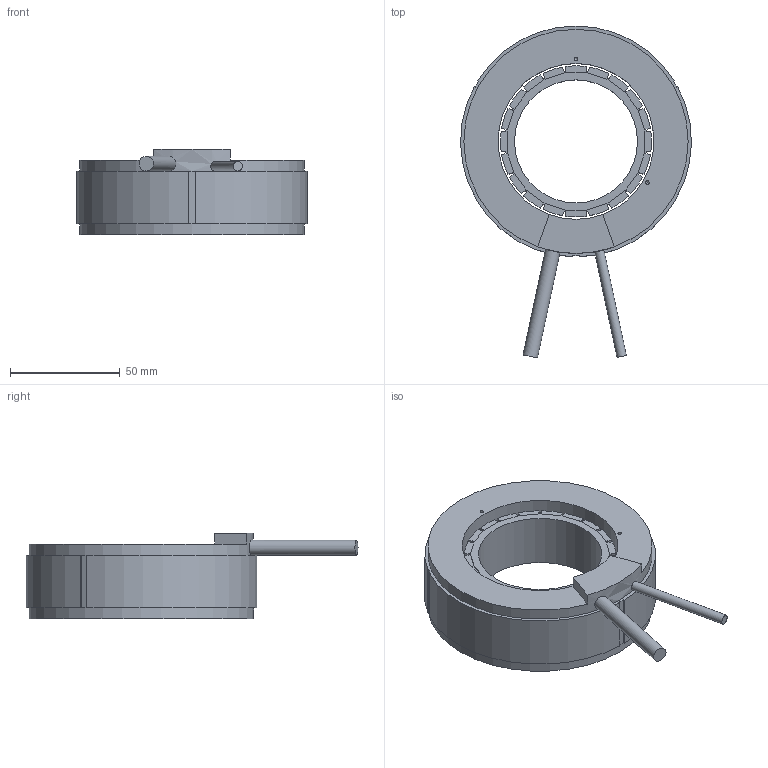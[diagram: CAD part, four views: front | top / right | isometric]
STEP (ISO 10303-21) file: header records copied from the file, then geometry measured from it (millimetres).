
FILE_DESCRIPTION(/* description */ ('Unknown'),/* implementation_level */ '2;1');
FILE_NAME(/* name */ 'Torque_QTR_105_34_YZ_Kit_CAD_180906',/* time_stamp */ '2018-09-06T16:55:03+02:00',/* author */ ('Unknown'),/* organization */ ('Unknown'),/* preprocessor_version */ 'ST-DEVELOPER v16.7',/* originating_system */ 'DEX',/* authorisation */ $);
FILE_SCHEMA (('AUTOMOTIVE_DESIGN {1 0 10303 214 3 1 1}'));
Length unit declared in the file: millimetre
Products named in the file (1): Torque_QTR_105_34_YZ_Kit_CAD_180906
Bounding box: 104.99 x 151.01 x 39 mm (x, y, z)
Volume: 189050.3 mm3; surface area: 44127.4 mm2
Topology: 2 solids, 2 shells, 273 faces, 720 edges, 454 vertices
Faces by surface type: plane 220, cylinder 51, cone 2
Full cylindrical faces by diameter (mm): 1.65 x2, 4.3 x1, 6.7 x1, 56 x1, 70.9 x1, 102 x2
Entity records: 8197 total; most frequent: CARTESIAN_POINT 1444, ORIENTED_EDGE 1404, DIRECTION 1350, EDGE_CURVE 702, LINE 598, VECTOR 598, VERTEX_POINT 448, AXIS2_PLACEMENT_3D 376
